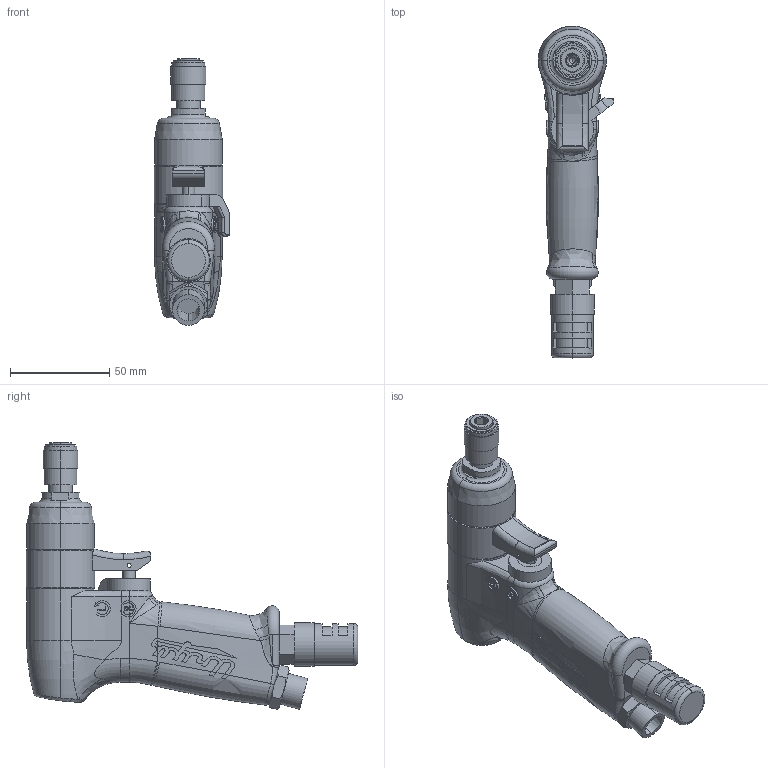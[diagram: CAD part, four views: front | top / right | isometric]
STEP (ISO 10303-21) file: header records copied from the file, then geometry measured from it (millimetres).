
FILE_DESCRIPTION (( 'STEP AP203' ), '1' );
FILE_NAME ('US-LD40P-08.STEP', '2006-05-24T08:06:07', ( '' ), ( '' ), 'SwSTEP 2.0', 'SolidWorks 2003240', '' );
FILE_SCHEMA (( 'CONFIG_CONTROL_DESIGN' ));
Length unit declared in the file: millimetre
Products named in the file (8): 4250704_US-LD40P-08_蹬怮椔; 4253504_US-LD40P-08_蹬怮椔; 4250253_US-LD40P-08_蹬怮椔; US-LD40P-08; 4802128_US-LD40P-08_蹬怮椔; 4261074_US-LD40P-08_蹬怮椔; 9810020_US-LD40P-08_蹬怮椔; 0113511_US-LD40P-08_蹬怮椔
Assembly tree (7 placements, depth 2):
  US-LD40P-08
    9810020_US-LD40P-08_蹬怮椔
    4802128_US-LD40P-08_蹬怮椔
    4253504_US-LD40P-08_蹬怮椔
    4261074_US-LD40P-08_蹬怮椔
    4250704_US-LD40P-08_蹬怮椔
    0113511_US-LD40P-08_蹬怮椔
    4250253_US-LD40P-08_蹬怮椔
Bounding box: 38.16 x 166.75 x 134.11 mm (x, y, z)
Volume: 206221.9 mm3; surface area: 38735.9 mm2
Topology: 7 solids, 7 shells, 675 faces, 1785 edges, 1159 vertices
Faces by surface type: plane 256, cylinder 193, bspline 172, cone 30, torus 22, sphere 2
Entity records: 65233 total; most frequent: CARTESIAN_POINT 49862, ORIENTED_EDGE 3552, DIRECTION 2259, EDGE_CURVE 1776, VERTEX_POINT 1156, AXIS2_PLACEMENT_3D 798, EDGE_LOOP 724, ADVANCED_FACE 675
